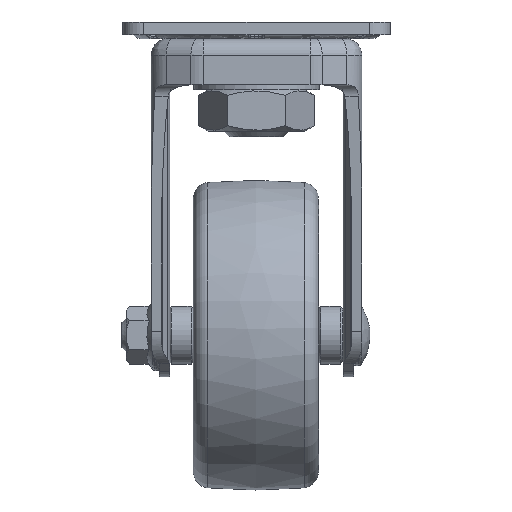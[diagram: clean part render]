
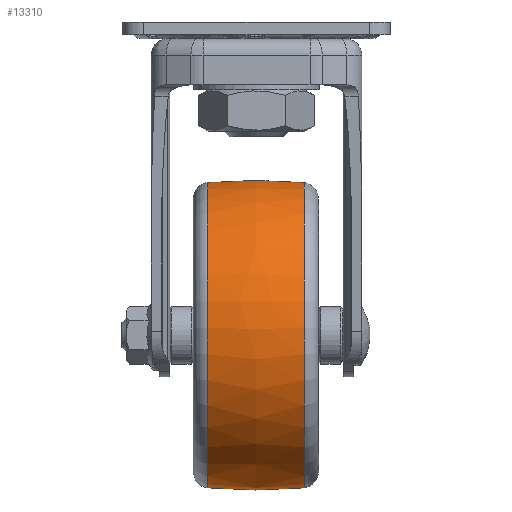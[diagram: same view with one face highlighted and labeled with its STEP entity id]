
A CAD part, front view. The second image highlights one B-rep face of the part: STEP entity #13310.
In plain terms, the highlighted free-form (B-spline) face has degree [2, 2] with [3, 9] control points.
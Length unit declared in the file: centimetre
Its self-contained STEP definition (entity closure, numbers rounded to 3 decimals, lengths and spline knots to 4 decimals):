
#48=(
BOUNDED_CURVE()
B_SPLINE_CURVE(2,(#24761,#24762,#24763),.UNSPECIFIED.,.F.,.F.)
B_SPLINE_CURVE_WITH_KNOTS((3,3),(-0.1556,0.1556),
 .UNSPECIFIED.)
CURVE()
GEOMETRIC_REPRESENTATION_ITEM()
RATIONAL_B_SPLINE_CURVE((1.,0.988,1.))
REPRESENTATION_ITEM('')
);
#191=(
BOUNDED_SURFACE()
B_SPLINE_SURFACE(2,2,((#24733,#24734,#24735,#24736,#24737,#24738,#24739,
#24740,#24741),(#24742,#24743,#24744,#24745,#24746,#24747,#24748,#24749,
#24750),(#24751,#24752,#24753,#24754,#24755,#24756,#24757,#24758,#24759)),
 .UNSPECIFIED.,.F.,.T.,.F.)
B_SPLINE_SURFACE_WITH_KNOTS((3,3),(3,2,2,2,3),(-0.1556,0.1556),
(-3.1416,-1.5708,0.,1.5708,3.1416),
 .UNSPECIFIED.)
GEOMETRIC_REPRESENTATION_ITEM()
RATIONAL_B_SPLINE_SURFACE(((1.,0.707,1.,0.707,1.,
0.707,1.,0.707,1.),(0.988,0.699,
0.988,0.699,0.988,0.699,
0.988,0.699,0.988),(1.,0.707,
1.,0.707,1.,0.707,1.,0.707,1.)))
REPRESENTATION_ITEM('')
SURFACE()
);
#3625=FACE_OUTER_BOUND('',#4493,.T.);
#4493=EDGE_LOOP('',(#11733,#11734,#11735,#11736,#11737,#11738));
#5163=CIRCLE('',#14620,3.6594);
#5164=CIRCLE('',#14621,3.6594);
#5165=CIRCLE('',#14622,3.6594);
#5166=CIRCLE('',#14623,3.6594);
#6332=VERTEX_POINT('',#24729);
#6333=VERTEX_POINT('',#24730);
#6334=VERTEX_POINT('',#24760);
#6335=VERTEX_POINT('',#24764);
#8137=EDGE_CURVE('',#6332,#6333,#5163,.T.);
#8138=EDGE_CURVE('',#6333,#6332,#5164,.T.);
#8139=EDGE_CURVE('',#6333,#6334,#48,.T.);
#8140=EDGE_CURVE('',#6334,#6335,#5165,.T.);
#8141=EDGE_CURVE('',#6335,#6334,#5166,.T.);
#11733=ORIENTED_EDGE('',*,*,#8137,.F.);
#11734=ORIENTED_EDGE('',*,*,#8138,.F.);
#11735=ORIENTED_EDGE('',*,*,#8139,.T.);
#11736=ORIENTED_EDGE('',*,*,#8140,.T.);
#11737=ORIENTED_EDGE('',*,*,#8141,.T.);
#11738=ORIENTED_EDGE('',*,*,#8139,.F.);
#13310=ADVANCED_FACE('',(#3625),#191,.F.);
#14620=AXIS2_PLACEMENT_3D('',#24731,#18108,#18109);
#14621=AXIS2_PLACEMENT_3D('',#24732,#18110,#18111);
#14622=AXIS2_PLACEMENT_3D('',#24765,#18112,#18113);
#14623=AXIS2_PLACEMENT_3D('',#24766,#18114,#18115);
#18108=DIRECTION('center_axis',(-1.,0.,0.));
#18109=DIRECTION('ref_axis',(0.,0.975,-0.222));
#18110=DIRECTION('center_axis',(-1.,0.,0.));
#18111=DIRECTION('ref_axis',(0.,0.975,-0.222));
#18112=DIRECTION('center_axis',(-1.,0.,0.));
#18113=DIRECTION('ref_axis',(0.,0.975,-0.222));
#18114=DIRECTION('center_axis',(-1.,0.,0.));
#18115=DIRECTION('ref_axis',(0.,0.975,-0.222));
#24729=CARTESIAN_POINT('',(-3.4252,6.6242,-10.9485));
#24730=CARTESIAN_POINT('',(-3.4252,-0.5121,-9.324));
#24731=CARTESIAN_POINT('Origin',(-3.4252,3.056,-10.1362));
#24732=CARTESIAN_POINT('Origin',(-3.4252,3.056,-10.1362));
#24733=CARTESIAN_POINT('Ctrl Pts',(-1.1012,-0.5121,
-9.324));
#24734=CARTESIAN_POINT('Ctrl Pts',(-1.1012,0.3001,-5.7558));
#24735=CARTESIAN_POINT('Ctrl Pts',(-1.1012,3.8683,-6.5681));
#24736=CARTESIAN_POINT('Ctrl Pts',(-1.1012,7.4364,-7.3803));
#24737=CARTESIAN_POINT('Ctrl Pts',(-1.1012,6.6242,-10.9485));
#24738=CARTESIAN_POINT('Ctrl Pts',(-1.1012,5.8119,-14.5166));
#24739=CARTESIAN_POINT('Ctrl Pts',(-1.1012,2.2438,-13.7044));
#24740=CARTESIAN_POINT('Ctrl Pts',(-1.1012,-1.3244,
-12.8921));
#24741=CARTESIAN_POINT('Ctrl Pts',(-1.1012,-0.5121,
-9.324));
#24742=CARTESIAN_POINT('Ctrl Pts',(-2.2632,-0.6898,
-9.2835));
#24743=CARTESIAN_POINT('Ctrl Pts',(-2.2632,0.1629,
-5.5377));
#24744=CARTESIAN_POINT('Ctrl Pts',(-2.2632,3.9087,-6.3904));
#24745=CARTESIAN_POINT('Ctrl Pts',(-2.2632,7.6545,-7.2431));
#24746=CARTESIAN_POINT('Ctrl Pts',(-2.2632,6.8019,-10.9889));
#24747=CARTESIAN_POINT('Ctrl Pts',(-2.2632,5.9492,-14.7348));
#24748=CARTESIAN_POINT('Ctrl Pts',(-2.2632,2.2033,-13.8821));
#24749=CARTESIAN_POINT('Ctrl Pts',(-2.2632,-1.5425,
-13.0294));
#24750=CARTESIAN_POINT('Ctrl Pts',(-2.2632,-0.6898,
-9.2835));
#24751=CARTESIAN_POINT('Ctrl Pts',(-3.4252,-0.5121,
-9.324));
#24752=CARTESIAN_POINT('Ctrl Pts',(-3.4252,0.3001,-5.7558));
#24753=CARTESIAN_POINT('Ctrl Pts',(-3.4252,3.8683,-6.5681));
#24754=CARTESIAN_POINT('Ctrl Pts',(-3.4252,7.4364,-7.3803));
#24755=CARTESIAN_POINT('Ctrl Pts',(-3.4252,6.6242,-10.9485));
#24756=CARTESIAN_POINT('Ctrl Pts',(-3.4252,5.8119,-14.5166));
#24757=CARTESIAN_POINT('Ctrl Pts',(-3.4252,2.2438,-13.7044));
#24758=CARTESIAN_POINT('Ctrl Pts',(-3.4252,-1.3244,
-12.8921));
#24759=CARTESIAN_POINT('Ctrl Pts',(-3.4252,-0.5121,
-9.324));
#24760=CARTESIAN_POINT('',(-1.1012,-0.5121,-9.324));
#24761=CARTESIAN_POINT('Ctrl Pts',(-3.4252,-0.5121,
-9.324));
#24762=CARTESIAN_POINT('Ctrl Pts',(-2.2632,-0.6898,
-9.2835));
#24763=CARTESIAN_POINT('Ctrl Pts',(-1.1012,-0.5121,
-9.324));
#24764=CARTESIAN_POINT('',(-1.1012,6.6242,-10.9485));
#24765=CARTESIAN_POINT('Origin',(-1.1012,3.056,-10.1362));
#24766=CARTESIAN_POINT('Origin',(-1.1012,3.056,-10.1362));
